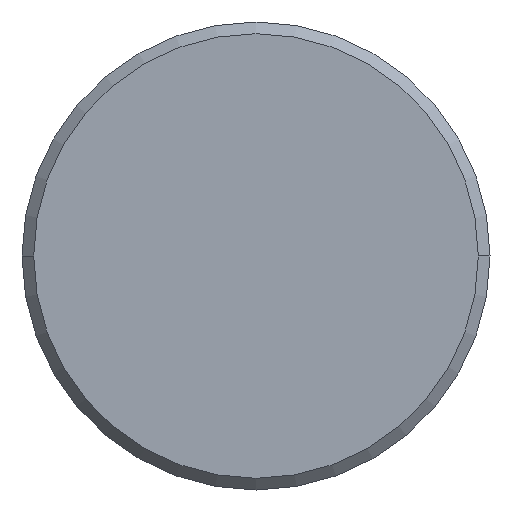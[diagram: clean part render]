
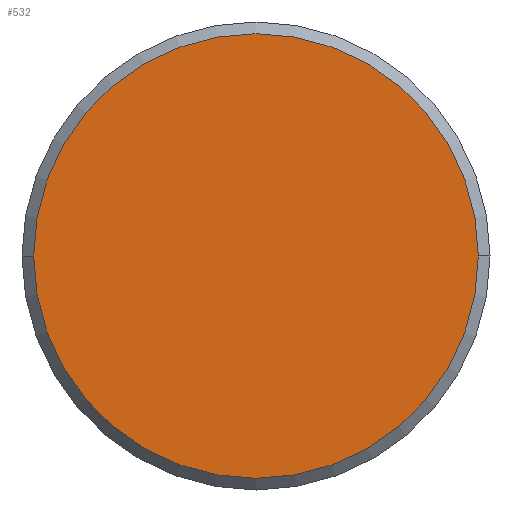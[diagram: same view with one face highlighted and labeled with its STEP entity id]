
A CAD part, front view. The second image highlights one B-rep face of the part: STEP entity #532.
In plain terms, the highlighted planar face has unit normal (0, -1, 0).
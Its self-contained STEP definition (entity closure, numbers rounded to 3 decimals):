
#33 = DIRECTION ( 'NONE',  ( 0., 1., 0. ) ) ;
#38 = DIRECTION ( 'NONE',  ( -1., 0., 0. ) ) ;
#140 = FACE_OUTER_BOUND ( 'NONE', #516, .T. ) ;
#222 = DIRECTION ( 'NONE',  ( 0., 1., 0. ) ) ;
#224 = DIRECTION ( 'NONE',  ( 0., 1., 0. ) ) ;
#229 = CIRCLE ( 'NONE', #316, 3.8 ) ;
#230 = ORIENTED_EDGE ( 'NONE', *, *, #491, .F. ) ;
#260 = DIRECTION ( 'NONE',  ( -1., 0., 0. ) ) ;
#277 = PLANE ( 'NONE',  #418 ) ;
#316 = AXIS2_PLACEMENT_3D ( 'NONE', #380, #222, #260 ) ;
#334 = CARTESIAN_POINT ( 'NONE',  ( 0., 0., 0. ) ) ;
#355 = VERTEX_POINT ( 'NONE', #572 ) ;
#357 = EDGE_CURVE ( 'NONE', #517, #355, #469, .T. ) ;
#380 = CARTESIAN_POINT ( 'NONE',  ( 0., 0., 0. ) ) ;
#387 = CARTESIAN_POINT ( 'NONE',  ( 0., 0., 0. ) ) ;
#418 = AXIS2_PLACEMENT_3D ( 'NONE', #387, #33, #569 ) ;
#469 = CIRCLE ( 'NONE', #687, 3.8 ) ;
#491 = EDGE_CURVE ( 'NONE', #355, #517, #229, .T. ) ;
#516 = EDGE_LOOP ( 'NONE', ( #727, #230 ) ) ;
#517 = VERTEX_POINT ( 'NONE', #668 ) ;
#532 = ADVANCED_FACE ( 'NONE', ( #140 ), #277, .F. ) ;
#569 = DIRECTION ( 'NONE',  ( -1., 0., 0. ) ) ;
#572 = CARTESIAN_POINT ( 'NONE',  ( 3.8, 0., 0. ) ) ;
#668 = CARTESIAN_POINT ( 'NONE',  ( -3.8, 0., 0. ) ) ;
#687 = AXIS2_PLACEMENT_3D ( 'NONE', #334, #224, #38 ) ;
#727 = ORIENTED_EDGE ( 'NONE', *, *, #357, .F. ) ;
